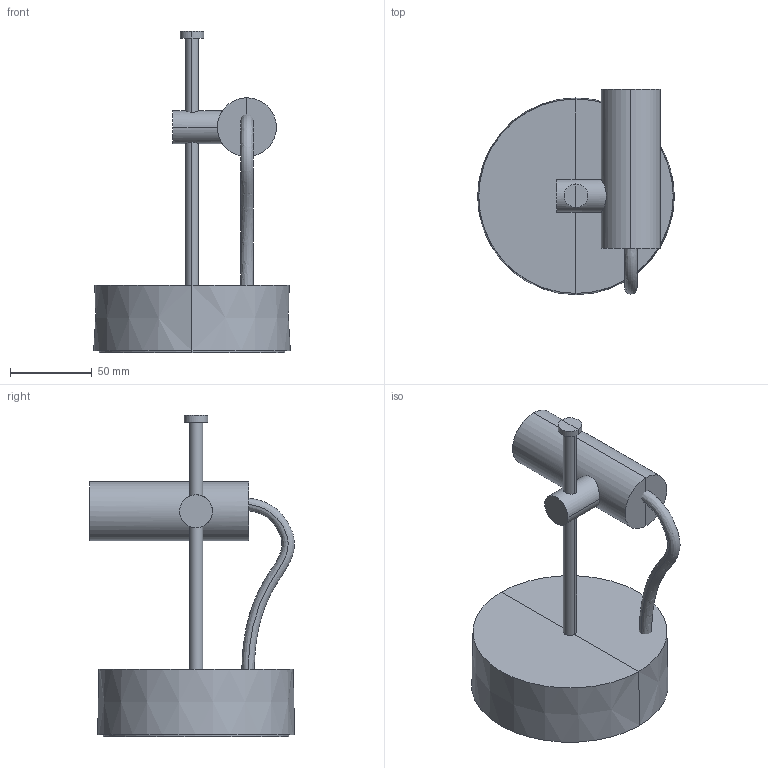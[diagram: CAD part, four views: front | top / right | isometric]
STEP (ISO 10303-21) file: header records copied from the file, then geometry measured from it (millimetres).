
FILE_DESCRIPTION(/* description */ (''),/* implementation_level */ '2;1');
FILE_NAME(/* name */ 'clap_walllamp_ceiling.step',/* time_stamp */ '2025-02-25T13:43:31+01:00',/* author */ ('RenataManzini'),/* organization */ (''),/* preprocessor_version */ 'ST-DEVELOPER v20',/* originating_system */ 'AutoCAD Mechanical',/* authorisation */ '');
FILE_SCHEMA (('AUTOMOTIVE_DESIGN { 1 0 10303 214 3 1 1 }'));
Length unit declared in the file: millimetre
Products named in the file (6): Product; FamilyGeomCombination_473061-Export; FamilyGeomCombination_473062-Export; FamilyGeomCombination_473064-Export; Fotometrica_Base - Fotometrica_Base-474871-Export; CLAP_ pantalla_s - CLAP Accesorio pantalla S negro-477061-Export
Assembly tree (5 placements, depth 2):
  Product
    FamilyGeomCombination_473061-Export
    FamilyGeomCombination_473062-Export
    FamilyGeomCombination_473064-Export
    Fotometrica_Base - Fotometrica_Base-474871-Export
    CLAP_ pantalla_s - CLAP Accesorio pantalla S negro-477061-Export
Bounding box: 120 x 124.99 x 195.8 mm (x, y, z)
Volume: 215436.3 mm3; surface area: 116152.2 mm2
Topology: 6 solids, 6 shells, 71 faces, 129 edges, 73 vertices
Faces by surface type: plane 35, cylinder 20, cone 14, bspline 2
Entity records: 2759 total; most frequent: CARTESIAN_POINT 1221, DIRECTION 336, ORIENTED_EDGE 252, AXIS2_PLACEMENT_3D 139, EDGE_CURVE 126, EDGE_LOOP 78, FACE_OUTER_BOUND 71, ADVANCED_FACE 71
